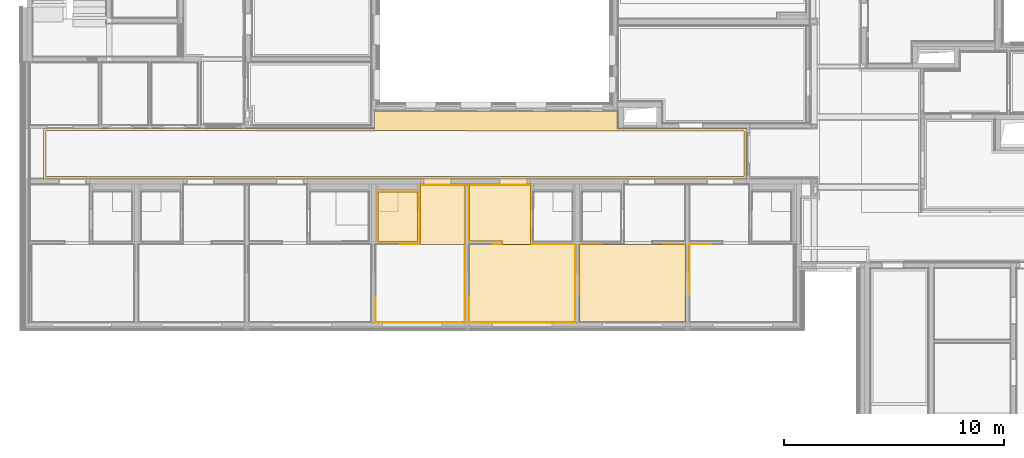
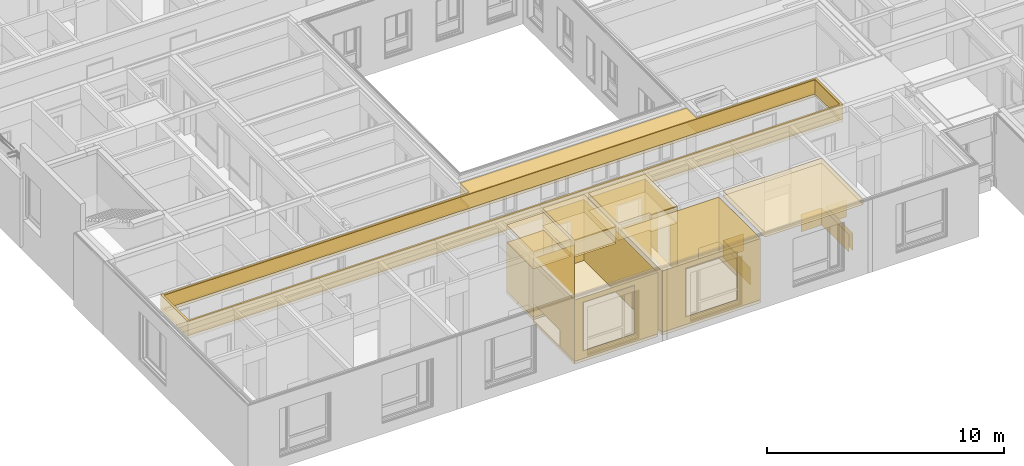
# One storey, part 156 of 222: 32 coverings.
"""IFC4 building model written with IfcOpenShell, lengths in metres."""

from ifc_helpers import new_model, entity, si_unit, converted_unit, derived_unit, frame, frame_2d, origin, origin_with_axes, place, context, subcontext, project, spatial, polyline, rectangle, outline, extrude, material, layer, layer_set, layer_usage, element, save


model = new_model("IFC4")

# Units and contexts
model_context = context("Model", 3, precision=1e-05, world=origin())
body_context = subcontext(model_context, "Body", "Model", "MODEL_VIEW")
ifc_project = project(units=[si_unit("LENGTHUNIT", "METRE"), si_unit("AREAUNIT", "SQUARE_METRE"), si_unit("VOLUMEUNIT", "CUBIC_METRE"), si_unit("MASSUNIT", "GRAM", prefix="KILO"), converted_unit("PLANEANGLEUNIT", "DEGREE", entity("IfcPlaneAngleMeasure", 0.0174532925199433), si_unit("PLANEANGLEUNIT", "RADIAN"), dimensions=[0, 0, 0, 0, 0, 0, 0]), derived_unit("THERMALTRANSMITTANCEUNIT", [(si_unit("POWERUNIT", "WATT"), 1), (si_unit("THERMODYNAMICTEMPERATUREUNIT", "KELVIN"), -1), (si_unit("LENGTHUNIT", "METRE"), -2)]), derived_unit("VOLUMETRICFLOWRATEUNIT", [(si_unit("LENGTHUNIT", "METRE"), 3), (converted_unit("TIMEUNIT", "hour", entity("IfcTimeMeasure", 3600.0), si_unit("TIMEUNIT", "SECOND"), dimensions=[0, 0, 1, 0, 0, 0, 0]), -1), (si_unit("LENGTHUNIT", "METRE"), -1)])], contexts=[model_context])

# Site, building, storey, space
site_placement = place(None, origin())
site = spatial("IfcSite", under=ifc_project, at=site_placement, Name="Psychiatrie Neubau Wunstorf", CompositionType="ELEMENT")
building_placement = place(site_placement, origin())
building = spatial("IfcBuilding", under=site, at=building_placement, Name="Neubau H2 Stationsgebäude", CompositionType="ELEMENT")
storey_placement = place(building_placement, frame((0.0, 0.0, 3.6)))
storey = spatial("IfcBuildingStorey", under=building, at=storey_placement, Name="H2 Ebene +1", CompositionType="ELEMENT", Elevation=3.6)
space_1_placement = place(storey_placement, frame((0.168999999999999, 4.33074963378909, 0.0)))
space_1 = spatial("IfcSpace", under=storey, at=space_1_placement, Name="WUN-H2-E01-073", CompositionType="ELEMENT")

# Coverings
ifc_material_1 = material()
ifc_layer_1 = layer(ifc_material_1, 0.036)
ifc_layer_set_1 = layer_set([ifc_layer_1])
ifc_layer_usage_1 = layer_usage(ifc_layer_set_1, "AXIS3", "POSITIVE", 0.0)
covering_1_placement = place(space_1_placement, frame((0.601000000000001, 0.0, 3.55)))
element("IfcCovering", 1, at=covering_1_placement, inside=space_1, material=ifc_layer_usage_1, Name="Gipsfaserplatten 2-lagig (BSK)", PredefinedType="CEILING", context=body_context, shape_type="SweptSolid", body=[
    extrude(outline(polyline([(0.0, 0.788999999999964), (15.019, 0.7890001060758), (15.019, 0.0), (26.0500003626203, 0.0), (26.0500003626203, 0.801999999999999), (31.8934999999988, 0.801999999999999), (31.8934999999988, 3.08325036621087), (0.0, 3.08325026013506), (0.0, 0.788999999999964)]), holes=[polyline([(0.1, 2.98325026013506), (31.7934999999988, 2.98325036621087), (31.7934999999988, 0.901999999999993), (0.1, 0.888999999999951), (0.1, 2.98325026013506)])]), frame((0.0, 3.08325036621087, 0.0), z_axis=(0.0, 0.0, -1.0), x_axis=(1.0, 0.0, 0.0)), (0.0, 0.0, 1.0), 0.036),
])
ifc_material_2 = material(Name="Installationshöhe")
ifc_layer_2 = layer(ifc_material_2, 0.714)
ifc_layer_set_2 = layer_set([ifc_layer_2])
ifc_layer_usage_2 = layer_usage(ifc_layer_set_2, "AXIS3", "POSITIVE", 0.0)
covering_2_placement = place(space_1_placement, frame((0.601000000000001, 0.0, 3.514)))
element("IfcCovering", 2, at=covering_2_placement, inside=space_1, material=ifc_layer_usage_2, Name="Gipsfaserplatten 2-lagig (BSK)", PredefinedType="CEILING", context=body_context, shape_type="SweptSolid", body=[
    extrude(outline(polyline([(0.0, 0.788999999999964), (15.019, 0.7890001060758), (15.019, 0.0), (26.0500003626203, 0.0), (26.0500003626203, 0.801999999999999), (31.8934999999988, 0.801999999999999), (31.8934999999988, 3.08325036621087), (0.0, 3.08325026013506), (0.0, 0.788999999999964)]), holes=[polyline([(0.1, 2.98325026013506), (31.7934999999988, 2.98325036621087), (31.7934999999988, 0.901999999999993), (0.1, 0.888999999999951), (0.1, 2.98325026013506)])]), frame((0.0, 3.08325036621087, 0.0), z_axis=(0.0, 0.0, -1.0), x_axis=(1.0, 0.0, 0.0)), (0.0, 0.0, 1.0), 0.714),
])
ifc_material_3 = material(Name="A1")
ifc_layer_3 = layer(ifc_material_3, 0.15)
ifc_layer_set_3 = layer_set([ifc_layer_3])
ifc_layer_usage_3 = layer_usage(ifc_layer_set_3, "AXIS3", "POSITIVE", 0.0)
covering_3_placement = place(space_1_placement, frame((0.601000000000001, 0.0, 2.8)))
element("IfcCovering", 3, at=covering_3_placement, inside=space_1, material=ifc_layer_usage_3, Name="Gipsfaserplatten 2-lagig (BSK)", PredefinedType="CEILING", context=body_context, shape_type="SweptSolid", body=[
    extrude(outline(polyline([(0.0, 0.788999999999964), (15.019, 0.7890001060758), (15.019, 0.0), (26.0500003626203, 0.0), (26.0500003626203, 0.801999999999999), (31.8934999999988, 0.801999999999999), (31.8934999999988, 3.08325036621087), (0.0, 3.08325026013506), (0.0, 0.788999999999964)]), holes=[polyline([(0.1, 2.98325026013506), (31.7934999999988, 2.98325036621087), (31.7934999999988, 0.901999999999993), (0.1, 0.888999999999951), (0.1, 2.98325026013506)])]), frame((0.0, 3.08325036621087, 0.0), z_axis=(0.0, 0.0, -1.0), x_axis=(1.0, 0.0, 0.0)), (0.0, 0.0, 1.0), 0.15),
])

# Space
space_2_placement = place(storey_placement, frame((30.1, -2.16399999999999, 0.0)))
space_2 = spatial("IfcSpace", under=storey, at=space_2_placement, Name="WUN-H2-E01-019", CompositionType="ELEMENT")

# Covering
ifc_material_4 = material(Name="84")
ifc_layer_4 = layer(ifc_material_4, 0.001)
ifc_layer_set_4 = layer_set([ifc_layer_4])
ifc_layer_usage_4 = layer_usage(ifc_layer_set_4, "AXIS3", "POSITIVE", 0.0)
covering_4_placement = place(space_2_placement, frame((0.0, 1.22274963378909, 0.1)))
element("IfcCovering", 4, at=covering_4_placement, inside=space_2, material=ifc_layer_usage_4, Name="Acrovyn", PredefinedType="CLADDING", context=body_context, shape_type="SweptSolid", body=[
    extrude(rectangle(XDim=1.0, YDim=0.9, at=frame_2d((0.5, -0.45), x_axis=(1.0, 0.0))), frame((1.0, 2.3, 0.0), z_axis=(0.0, -1.0, 0.0), x_axis=(-1.0, 0.0, 0.0)), (0.0, 0.0, 1.0), 0.001),
    extrude(rectangle(XDim=2.3, YDim=0.9, at=frame_2d((1.15, -0.45), x_axis=(1.0, 0.0))), frame((0.0, 2.3, 0.0), z_axis=(1.0, 0.0, 0.0), x_axis=(0.0, -1.0, 0.0)), (0.0, 0.0, 1.0), 0.001),
])

# Space
space_3_placement = place(storey_placement, frame((25.1, -2.16399999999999, 0.0)))
space_3 = spatial("IfcSpace", under=storey, at=space_3_placement, Name="WUN-H2-E01-020", CompositionType="ELEMENT")

# Coverings
ifc_material_5 = material(Name="84")
ifc_layer_5 = layer(ifc_material_5, 0.001)
ifc_layer_set_5 = layer_set([ifc_layer_5])
ifc_layer_usage_5 = layer_usage(ifc_layer_set_5, "AXIS3", "POSITIVE", 0.0)
covering_5_placement = place(space_3_placement, frame((0.0, 1.2227496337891, 0.1)))
element("IfcCovering", 5, at=covering_5_placement, inside=space_3, material=ifc_layer_usage_5, Name="Acrovyn", PredefinedType="CLADDING", context=body_context, shape_type="SweptSolid", body=[
    extrude(rectangle(XDim=1.0, YDim=0.9, at=frame_2d((0.5, -0.45), x_axis=(1.0, 0.0))), frame((1.0, 2.3, 0.0), z_axis=(0.0, -1.0, 0.0), x_axis=(-1.0, 0.0, 0.0)), (0.0, 0.0, 1.0), 0.001),
    extrude(rectangle(XDim=2.3, YDim=0.9, at=frame_2d((1.15, -0.45), x_axis=(1.0, 0.0))), frame((0.0, 2.3, 0.0), z_axis=(1.0, 0.0, 0.0), x_axis=(0.0, -1.0, 0.0)), (0.0, 0.0, 1.0), 0.001),
])
ifc_material_6 = material(Name="84")
ifc_layer_6 = layer(ifc_material_6, 0.001)
ifc_layer_set_6 = layer_set([ifc_layer_6])
ifc_layer_usage_6 = layer_usage(ifc_layer_set_6, "AXIS3", "POSITIVE", 0.0)
covering_6_placement = place(space_3_placement, frame((3.80000000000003, 1.2227496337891, 0.1)))
element("IfcCovering", 6, at=covering_6_placement, inside=space_3, material=ifc_layer_usage_6, Name="Acrovyn", PredefinedType="CLADDING", context=body_context, shape_type="SweptSolid", body=[
    extrude(rectangle(XDim=0.9, YDim=1.0, at=frame_2d((-0.5, -0.45), x_axis=(0.0, -1.0))), frame((0.0, 2.3, 0.0), z_axis=(4.54747350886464e-16, -1.0, 0.0), x_axis=(-1.0, -4.54747350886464e-16, 0.0)), (0.0, 0.0, 1.0), 0.001),
    extrude(rectangle(XDim=0.9, YDim=2.3, at=frame_2d((-1.15, -0.45), x_axis=(0.0, -1.0))), frame((1.0, 2.3, 0.0), z_axis=(-1.0, 0.0, 0.0), x_axis=(0.0, 1.0, 0.0)), (0.0, 0.0, 1.0), 0.001),
])
ifc_material_7 = material()
ifc_layer_7 = layer(ifc_material_7, 0.036)
ifc_layer_set_7 = layer_set([ifc_layer_7])
ifc_layer_usage_7 = layer_usage(ifc_layer_set_7, "AXIS3", "POSITIVE", 0.0)
covering_7_placement = place(space_3_placement, frame((0.0, 0.0, 3.55)))
element("IfcCovering", 7, at=covering_7_placement, inside=space_3, material=ifc_layer_usage_7, Name="Gipsfaserplatten 2-lagig (BSK)", PredefinedType="CEILING", context=body_context, shape_type="SweptSolid", body=[
    extrude(rectangle(XDim=3.52274963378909, YDim=4.80000000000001, at=frame_2d((-2.40000000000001, 1.76137481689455), x_axis=(0.0, 1.0))), frame((4.80000000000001, 3.52274963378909, 0.0), z_axis=(0.0, 0.0, -1.0), x_axis=(1.0, 0.0, 0.0)), (0.0, 0.0, 1.0), 0.036),
])
ifc_material_8 = material(Name="Installationshöhe")
ifc_layer_8 = layer(ifc_material_8, 0.114)
ifc_layer_set_8 = layer_set([ifc_layer_8])
ifc_layer_usage_8 = layer_usage(ifc_layer_set_8, "AXIS3", "POSITIVE", 0.0)
covering_8_placement = place(space_3_placement, frame((0.0, 0.0, 3.514)))
element("IfcCovering", 8, at=covering_8_placement, inside=space_3, material=ifc_layer_usage_8, Name="Gipsfaserplatten 2-lagig (BSK)", PredefinedType="CEILING", context=body_context, shape_type="SweptSolid", body=[
    extrude(rectangle(XDim=3.52274963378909, YDim=4.80000000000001, at=frame_2d((-2.40000000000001, 1.76137481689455), x_axis=(0.0, 1.0))), frame((4.80000000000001, 3.52274963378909, 0.0), z_axis=(0.0, 0.0, -1.0), x_axis=(1.0, 0.0, 0.0)), (0.0, 0.0, 1.0), 0.114),
])
ifc_material_9 = material(Name="A1")
ifc_layer_9 = layer(ifc_material_9, 0.1)
ifc_layer_set_9 = layer_set([ifc_layer_9])
ifc_layer_usage_9 = layer_usage(ifc_layer_set_9, "AXIS3", "POSITIVE", 0.0)
covering_9_placement = place(space_3_placement, frame((0.0, 0.0, 3.4)))
element("IfcCovering", 9, at=covering_9_placement, inside=space_3, material=ifc_layer_usage_9, Name="Gipsfaserplatten 2-lagig (BSK)", PredefinedType="CEILING", context=body_context, shape_type="SweptSolid", body=[
    extrude(rectangle(XDim=3.52274963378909, YDim=4.80000000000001, at=frame_2d((-2.40000000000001, 1.76137481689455), x_axis=(0.0, 1.0))), frame((4.80000000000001, 3.52274963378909, 0.0), z_axis=(0.0, 0.0, -1.0), x_axis=(1.0, 0.0, 0.0)), (0.0, 0.0, 1.0), 0.1),
])
ifc_material_10 = material(Name="D1")
ifc_layer_10 = layer(ifc_material_10, 0.001)
ifc_layer_set_10 = layer_set([ifc_layer_10])
ifc_layer_usage_10 = layer_usage(ifc_layer_set_10, "AXIS3", "POSITIVE", 0.0)
covering_10_placement = place(space_3_placement, frame((0.0, 0.0, 3.3)))
element("IfcCovering", 10, at=covering_10_placement, inside=space_3, material=ifc_layer_usage_10, Name="Gipsfaserplatten 2-lagig (BSK)", PredefinedType="CEILING", context=body_context, shape_type="SweptSolid", body=[
    extrude(rectangle(XDim=3.52274963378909, YDim=4.80000000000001, at=frame_2d((-2.40000000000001, 1.76137481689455), x_axis=(0.0, 1.0))), frame((4.80000000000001, 3.52274963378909, 0.0), z_axis=(0.0, 0.0, -1.0), x_axis=(1.0, 0.0, 0.0)), (0.0, 0.0, 1.0), 0.001),
])

# Space
space_4_placement = place(storey_placement, frame((20.1, -2.16399999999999, 0.0)))
space_4 = spatial("IfcSpace", under=storey, at=space_4_placement, Name="WUN-H2-E01-021", CompositionType="ELEMENT")

# Coverings
ifc_material_11 = material(Name="84")
ifc_layer_11 = layer(ifc_material_11, 0.001)
ifc_layer_set_11 = layer_set([ifc_layer_11])
ifc_layer_usage_11 = layer_usage(ifc_layer_set_11, "AXIS3", "POSITIVE", 0.0)
covering_11_placement = place(space_4_placement, frame((3.80000000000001, 1.22274963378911, 0.1)))
element("IfcCovering", 11, at=covering_11_placement, inside=space_4, material=ifc_layer_usage_11, Name="Acrovyn", PredefinedType="CLADDING", context=body_context, shape_type="SweptSolid", body=[
    extrude(rectangle(XDim=0.9, YDim=1.0, at=frame_2d((-0.5, -0.45), x_axis=(0.0, -1.0))), frame((0.0, 2.3, 0.0), z_axis=(4.54747350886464e-16, -1.0, 0.0), x_axis=(-1.0, -4.54747350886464e-16, 0.0)), (0.0, 0.0, 1.0), 0.001),
    extrude(rectangle(XDim=0.9, YDim=2.3, at=frame_2d((-1.15, -0.45), x_axis=(0.0, -1.0))), frame((1.0, 2.3, 0.0), z_axis=(-1.0, 0.0, 0.0), x_axis=(0.0, 1.0, 0.0)), (0.0, 0.0, 1.0), 0.001),
])
ifc_material_12 = material()
ifc_layer_12 = layer(ifc_material_12, 0.036)
ifc_layer_set_12 = layer_set([ifc_layer_12])
ifc_layer_usage_12 = layer_usage(ifc_layer_set_12, "AXIS3", "POSITIVE", 0.0)
covering_12_placement = place(space_4_placement, frame((0.0, 3.52274963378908, 3.55)))
element("IfcCovering", 12, at=covering_12_placement, inside=space_4, material=ifc_layer_usage_12, Name="Gipsfaserplatten 2-lagig (BSK)", PredefinedType="CEILING", context=body_context, shape_type="SweptSolid", body=[
    extrude(outline(polyline([(2.775, 0.0), (2.775, 2.69999999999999), (1.5, 2.69999999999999), (1.5, 2.54999999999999), (0.0, 2.54999999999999), (0.0, 0.0), (2.775, 0.0)])), frame((0.0, 2.69999999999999, 0.0), z_axis=(0.0, 0.0, -1.0), x_axis=(1.0, 0.0, 0.0)), (0.0, 0.0, 1.0), 0.036),
])
ifc_material_13 = material(Name="Installationshöhe")
ifc_layer_13 = layer(ifc_material_13, 0.764)
ifc_layer_set_13 = layer_set([ifc_layer_13])
ifc_layer_usage_13 = layer_usage(ifc_layer_set_13, "AXIS3", "POSITIVE", 0.0)
covering_13_placement = place(space_4_placement, frame((0.0, 3.52274963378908, 3.514)))
element("IfcCovering", 13, at=covering_13_placement, inside=space_4, material=ifc_layer_usage_13, Name="Gipsfaserplatten 2-lagig (BSK)", PredefinedType="CEILING", context=body_context, shape_type="SweptSolid", body=[
    extrude(outline(polyline([(2.775, 0.0), (2.775, 2.69999999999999), (1.5, 2.69999999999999), (1.5, 2.54999999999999), (0.0, 2.54999999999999), (0.0, 0.0), (2.775, 0.0)])), frame((0.0, 2.69999999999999, 0.0), z_axis=(0.0, 0.0, -1.0), x_axis=(1.0, 0.0, 0.0)), (0.0, 0.0, 1.0), 0.764),
])
ifc_material_14 = material(Name="A1")
ifc_layer_14 = layer(ifc_material_14, 0.1)
ifc_layer_set_14 = layer_set([ifc_layer_14])
ifc_layer_usage_14 = layer_usage(ifc_layer_set_14, "AXIS3", "POSITIVE", 0.0)
covering_14_placement = place(space_4_placement, frame((0.0, 3.52274963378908, 2.75)))
element("IfcCovering", 14, at=covering_14_placement, inside=space_4, material=ifc_layer_usage_14, Name="Gipsfaserplatten 2-lagig (BSK)", PredefinedType="CEILING", context=body_context, shape_type="SweptSolid", body=[
    extrude(outline(polyline([(2.775, 0.0), (2.775, 2.69999999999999), (1.5, 2.69999999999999), (1.5, 2.54999999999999), (0.0, 2.54999999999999), (0.0, 0.0), (2.775, 0.0)])), frame((0.0, 2.69999999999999, 0.0), z_axis=(0.0, 0.0, -1.0), x_axis=(1.0, 0.0, 0.0)), (0.0, 0.0, 1.0), 0.1),
])
ifc_material_15 = material(Name="D1")
ifc_layer_15 = layer(ifc_material_15, 0.001)
ifc_layer_set_15 = layer_set([ifc_layer_15])
ifc_layer_usage_15 = layer_usage(ifc_layer_set_15, "AXIS3", "POSITIVE", 0.0)
covering_15_placement = place(space_4_placement, frame((0.0, 3.52274963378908, 2.65)))
element("IfcCovering", 15, at=covering_15_placement, inside=space_4, material=ifc_layer_usage_15, Name="Gipsfaserplatten 2-lagig (BSK)", PredefinedType="CEILING", context=body_context, shape_type="SweptSolid", body=[
    extrude(outline(polyline([(2.775, 0.0), (2.775, 2.69999999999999), (1.5, 2.69999999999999), (1.5, 2.54999999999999), (0.0, 2.54999999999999), (0.0, 0.0), (2.775, 0.0)])), frame((0.0, 2.69999999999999, 0.0), z_axis=(0.0, 0.0, -1.0), x_axis=(1.0, 0.0, 0.0)), (0.0, 0.0, 1.0), 0.001),
])
ifc_material_16 = material(Name="Ku1")
ifc_layer_16 = layer(ifc_material_16, 0.15)
ifc_layer_set_16 = layer_set([ifc_layer_16])
ifc_layer_usage_16 = layer_usage(ifc_layer_set_16, "AXIS3", "POSITIVE", 0.0)
covering_16_placement = place(space_4_placement, origin())
element("IfcCovering", 16, at=covering_16_placement, inside=space_4, material=ifc_layer_usage_16, Name="PVC Bahnenware Holzoptik", PredefinedType="FLOORING", context=body_context, shape_type="SweptSolid", body=[
    extrude(rectangle(XDim=0.271999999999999, YDim=1.26, at=frame_2d((-0.63, 0.136), x_axis=(0.0, 1.0))), frame((2.625, 6.22274963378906, 0.0), z_axis=(0.0, 0.0, 1.0), x_axis=(1.0, 0.0, 0.0)), (0.0, 0.0, 1.0), 0.15),
    extrude(outline(polyline([(2.775, 6.22274963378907), (0.0, 6.22274963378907), (0.0, 3.67274963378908), (1.5, 3.67274963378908), (1.5, 3.52274963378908), (0.0, 3.52274963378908), (0.0, 0.0), (4.8, 0.0), (4.8, 3.5227496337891), (2.775, 3.5227496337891), (2.775, 6.22274963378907)])), origin_with_axes(), (0.0, 0.0, 1.0), 0.15),
])
ifc_material_17 = material(Name="D1")
ifc_layer_17 = layer(ifc_material_17, 0.001)
ifc_layer_set_17 = layer_set([ifc_layer_17])
ifc_layer_usage_17 = layer_usage(ifc_layer_set_17, "AXIS3", "POSITIVE", 0.0)
covering_17_placement = place(space_4_placement, frame((0.0, 0.0, 3.3)))
element("IfcCovering", 17, at=covering_17_placement, inside=space_4, material=ifc_layer_usage_17, Name="Gipsfaserplatten 2-lagig (BSK)", PredefinedType="CEILING", context=body_context, shape_type="SweptSolid", body=[
    extrude(rectangle(XDim=3.5227496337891, YDim=4.8, at=frame_2d((-2.4, 1.76137481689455), x_axis=(0.0, 1.0))), frame((4.8, 3.5227496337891, 0.0), z_axis=(0.0, 0.0, -1.0), x_axis=(1.0, 0.0, 0.0)), (0.0, 0.0, 1.0), 0.001),
])
ifc_material_18 = material(Name="49")
ifc_layer_18 = layer(ifc_material_18, 0.001)
ifc_layer_set_18 = layer_set([ifc_layer_18])
ifc_layer_usage_18 = layer_usage(ifc_layer_set_18, "AXIS3", "POSITIVE", 0.0)
covering_18_placement = place(space_4_placement, frame((0.0, -0.025, 0.15)))
element("IfcCovering", 18, at=covering_18_placement, inside=space_4, material=ifc_layer_usage_18, PredefinedType="CLADDING", context=body_context, shape_type="SweptSolid", body=[
    extrude(outline(polyline([(0.999999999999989, 3.15), (2.025, 3.15), (2.025, 0.0), (0.0, 0.0), (0.0, 2.3), (0.999999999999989, 2.3), (0.999999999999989, 3.15)])), frame((4.8, 3.5477496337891, 3.15), z_axis=(7.34093620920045e-16, -1.0, -8.63639554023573e-16), x_axis=(-1.0, -7.34093620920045e-16, 0.0)), (0.0, 0.0, 1.0), 0.001),
    extrude(outline(polyline([(0.0, 3.15), (0.62500000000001, 3.15), (0.62500000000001, 0.89), (1.63500000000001, 0.89), (1.63500000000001, 3.15), (2.69999999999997, 3.15), (2.69999999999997, 0.0), (0.0, 0.0), (0.0, 3.15)])), frame((2.775, 3.5477496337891, 3.15), z_axis=(-1.0, -2.34672188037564e-15, 1.16805161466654e-16), x_axis=(-2.34672188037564e-15, 1.0, 0.0)), (0.0, 0.0, 1.0), 0.001),
    extrude(outline(polyline([(0.0, 3.15), (0.149999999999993, 3.15), (0.149999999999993, 0.89), (1.40999999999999, 0.89), (1.40999999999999, 3.15), (2.775, 3.15), (2.775, 0.0), (0.0, 0.0), (0.0, 3.15)])), frame((2.775, 6.24774963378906, 3.15), z_axis=(-1.55957542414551e-16, -1.0, -3.76782381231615e-16), x_axis=(-1.0, 1.55957542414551e-16, 0.0)), (0.0, 0.0, 1.0), 0.001),
    extrude(rectangle(XDim=2.54999999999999, YDim=3.15, at=frame_2d((1.27499999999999, -1.575), x_axis=(1.0, 0.0))), frame((0.0, 6.24774963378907, 0.0), z_axis=(1.0, 0.0, 0.0), x_axis=(0.0, -1.0, 0.0)), (0.0, 0.0, 1.0), 0.001),
    extrude(rectangle(XDim=1.5, YDim=3.15, at=frame_2d((0.75, -1.575), x_axis=(1.0, 0.0))), frame((0.0, 3.69774963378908, 0.0), z_axis=(0.0, 1.0, 0.0), x_axis=(1.0, 0.0, 0.0)), (0.0, 0.0, 1.0), 0.001),
    extrude(rectangle(XDim=0.15, YDim=3.15, at=frame_2d((0.0749999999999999, -1.575), x_axis=(1.0, 0.0))), frame((1.5, 3.69774963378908, 0.0), z_axis=(1.0, 0.0, 0.0), x_axis=(0.0, -1.0, 0.0)), (0.0, 0.0, 1.0), 0.001),
    extrude(outline(polyline([(0.0, 3.15), (0.5, 3.15), (0.5, 2.3), (1.5, 2.3), (1.5, 0.0), (0.0, 0.0), (0.0, 3.15)])), frame((1.5, 3.54774963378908, 3.15), z_axis=(0.0, -1.0, 0.0), x_axis=(-1.0, 0.0, 0.0)), (0.0, 0.0, 1.0), 0.001),
    extrude(outline(polyline([(2.3, 3.15), (3.52274963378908, 3.15), (3.52274963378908, 0.0), (0.0, 0.0), (0.0, 2.3), (2.3, 2.3), (2.3, 3.15)])), frame((0.0, 3.54774963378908, 3.15), z_axis=(1.0, 0.0, 0.0), x_axis=(0.0, -1.0, 0.0)), (0.0, 0.0, 1.0), 0.001),
    extrude(outline(polyline([(0.0, 3.15), (4.8, 3.15), (4.8, 0.0), (0.0, 0.0), (0.0, 3.15)]), holes=[polyline([(3.65, 2.75), (1.15, 2.75), (1.15, 0.25), (3.65, 0.25), (3.65, 2.75)])]), frame((0.0, 0.0249999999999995, 3.15), z_axis=(5.31992689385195e-17, 1.0, 0.0), x_axis=(1.0, -5.31992689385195e-17, 0.0)), (0.0, 0.0, 1.0), 0.001),
    extrude(outline(polyline([(0.0, 3.15), (1.22274963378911, 3.15), (1.22274963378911, 2.3), (3.5227496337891, 2.3), (3.5227496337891, 0.0), (0.0, 0.0), (0.0, 3.15)])), frame((4.8, 0.0250000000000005, 3.15), z_axis=(-1.0, -6.28993976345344e-16, -1.66118574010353e-15), x_axis=(-6.28993976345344e-16, 1.0, 0.0)), (0.0, 0.0, 1.0), 0.001),
    extrude(rectangle(XDim=0.0249999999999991, YDim=2.5, at=frame_2d((0.0124999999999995, -1.25), x_axis=(1.0, 0.0))), frame((1.15, 0.0249999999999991, 0.4), z_axis=(1.0, 0.0, 0.0), x_axis=(0.0, -1.0, 0.0)), (0.0, 0.0, 1.0), 0.001),
    extrude(rectangle(XDim=2.5, YDim=0.0249999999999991, at=frame_2d((-1.25, 0.0124999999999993), x_axis=(-1.0, -1.81898940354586e-16))), frame((3.65, 0.0249999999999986, 2.9), z_axis=(0.0, 0.0, -1.0), x_axis=(1.0, 0.0, 0.0)), (0.0, 0.0, 1.0), 0.001),
    extrude(rectangle(XDim=2.5, YDim=0.0249999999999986, at=frame_2d((-0.0124999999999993, -1.25), x_axis=(0.0, -1.0))), frame((3.65, 0.0249999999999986, 0.4), z_axis=(-1.0, 0.0, 0.0), x_axis=(0.0, 1.0, 0.0)), (0.0, 0.0, 1.0), 0.001),
])

# Space
space_5_placement = place(storey_placement, frame((15.85, -2.16399999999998, 0.0)))
space_5 = spatial("IfcSpace", under=storey, at=space_5_placement, Name="WUN-H2-E01-022", CompositionType="ELEMENT")

# Coverings
ifc_material_19 = material()
ifc_layer_19 = layer(ifc_material_19, 0.036)
ifc_layer_set_19 = layer_set([ifc_layer_19])
ifc_layer_usage_19 = layer_usage(ifc_layer_set_19, "AXIS3", "POSITIVE", 0.0)
covering_19_placement = place(space_5_placement, frame((2.02499999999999, 3.52274963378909, 3.55)))
element("IfcCovering", 19, at=covering_19_placement, inside=space_5, material=ifc_layer_usage_19, Name="Gipsfaserplatten 2-lagig (BSK)", PredefinedType="CEILING", context=body_context, shape_type="SweptSolid", body=[
    extrude(rectangle(XDim=2.69999999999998, YDim=2.025, at=frame_2d((1.0125, -1.34999999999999), x_axis=(-2.69479911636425e-15, -1.0))), frame((0.0, 0.0, 0.0), z_axis=(0.0, 0.0, -1.0), x_axis=(1.0, 0.0, 0.0)), (0.0, 0.0, 1.0), 0.036),
])
ifc_material_20 = material(Name="Installationshöhe")
ifc_layer_20 = layer(ifc_material_20, 0.764)
ifc_layer_set_20 = layer_set([ifc_layer_20])
ifc_layer_usage_20 = layer_usage(ifc_layer_set_20, "AXIS3", "POSITIVE", 0.0)
covering_20_placement = place(space_5_placement, frame((2.02499999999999, 3.52274963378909, 3.514)))
element("IfcCovering", 20, at=covering_20_placement, inside=space_5, material=ifc_layer_usage_20, Name="Gipsfaserplatten 2-lagig (BSK)", PredefinedType="CEILING", context=body_context, shape_type="SweptSolid", body=[
    extrude(rectangle(XDim=2.69999999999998, YDim=2.025, at=frame_2d((1.0125, -1.34999999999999), x_axis=(-2.69479911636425e-15, -1.0))), frame((0.0, 0.0, 0.0), z_axis=(0.0, 0.0, -1.0), x_axis=(1.0, 0.0, 0.0)), (0.0, 0.0, 1.0), 0.764),
])
ifc_material_21 = material(Name="A1")
ifc_layer_21 = layer(ifc_material_21, 0.1)
ifc_layer_set_21 = layer_set([ifc_layer_21])
ifc_layer_usage_21 = layer_usage(ifc_layer_set_21, "AXIS3", "POSITIVE", 0.0)
covering_21_placement = place(space_5_placement, frame((2.02499999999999, 3.52274963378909, 2.75)))
element("IfcCovering", 21, at=covering_21_placement, inside=space_5, material=ifc_layer_usage_21, Name="Gipsfaserplatten 2-lagig (BSK)", PredefinedType="CEILING", context=body_context, shape_type="SweptSolid", body=[
    extrude(rectangle(XDim=2.69999999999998, YDim=2.025, at=frame_2d((1.0125, -1.34999999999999), x_axis=(-2.69479911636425e-15, -1.0))), frame((0.0, 0.0, 0.0), z_axis=(0.0, 0.0, -1.0), x_axis=(1.0, 0.0, 0.0)), (0.0, 0.0, 1.0), 0.1),
])
ifc_material_22 = material(Name="D1")
ifc_layer_22 = layer(ifc_material_22, 0.001)
ifc_layer_set_22 = layer_set([ifc_layer_22])
ifc_layer_usage_22 = layer_usage(ifc_layer_set_22, "AXIS3", "POSITIVE", 0.0)
covering_22_placement = place(space_5_placement, frame((2.02499999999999, 3.52274963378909, 2.65)))
element("IfcCovering", 22, at=covering_22_placement, inside=space_5, material=ifc_layer_usage_22, Name="Gipsfaserplatten 2-lagig (BSK)", PredefinedType="CEILING", context=body_context, shape_type="SweptSolid", body=[
    extrude(rectangle(XDim=2.69999999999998, YDim=2.025, at=frame_2d((1.0125, -1.34999999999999), x_axis=(-2.69479911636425e-15, -1.0))), frame((0.0, 0.0, 0.0), z_axis=(0.0, 0.0, -1.0), x_axis=(1.0, 0.0, 0.0)), (0.0, 0.0, 1.0), 0.001),
])
ifc_material_23 = material(Name="Ku1")
ifc_layer_23 = layer(ifc_material_23, 0.15)
ifc_layer_set_23 = layer_set([ifc_layer_23])
ifc_layer_usage_23 = layer_usage(ifc_layer_set_23, "AXIS3", "POSITIVE", 0.0)
covering_23_placement = place(space_5_placement, origin())
element("IfcCovering", 23, at=covering_23_placement, inside=space_5, material=ifc_layer_usage_23, Name="PVC Bahnenware Holzoptik", PredefinedType="FLOORING", context=body_context, shape_type="SweptSolid", body=[
    extrude(rectangle(XDim=0.271999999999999, YDim=1.26, at=frame_2d((-0.63, 0.136), x_axis=(0.0, 1.0))), frame((3.435, 6.22274963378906, 0.0), z_axis=(0.0, 0.0, 1.0), x_axis=(1.0, 0.0, 0.0)), (0.0, 0.0, 1.0), 0.15),
    extrude(outline(polyline([(0.0, 3.52274963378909), (0.0, 0.0), (4.04999999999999, 0.0), (4.04999999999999, 6.22274963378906), (2.025, 6.22274963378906), (2.025, 3.52274963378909), (0.0, 3.52274963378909)])), origin_with_axes(), (0.0, 0.0, 1.0), 0.15),
])
ifc_material_24 = material(Name="49")
ifc_layer_24 = layer(ifc_material_24, 0.001)
ifc_layer_set_24 = layer_set([ifc_layer_24])
ifc_layer_usage_24 = layer_usage(ifc_layer_set_24, "AXIS3", "POSITIVE", 0.0)
covering_24_placement = place(space_5_placement, frame((0.0, -0.0249999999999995, 0.15)))
element("IfcCovering", 24, at=covering_24_placement, inside=space_5, material=ifc_layer_usage_24, PredefinedType="CLADDING", context=body_context, shape_type="SweptSolid", body=[
    extrude(outline(polyline([(0.0, 3.15), (1.06499999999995, 3.15), (1.06499999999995, 0.89), (2.07499999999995, 0.89), (2.07499999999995, 3.15), (2.69999999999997, 3.15), (2.69999999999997, 0.0), (0.0, 0.0), (0.0, 3.15)])), frame((2.025, 6.24774963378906, 3.15), z_axis=(1.0, 0.0, 0.0), x_axis=(0.0, -1.0, 0.0)), (0.0, 0.0, 1.0), 0.001),
    extrude(outline(polyline([(0.0, 3.15), (1.025, 3.15), (1.025, 2.3), (2.025, 2.3), (2.025, 0.0), (0.0, 0.0), (0.0, 3.15)])), frame((2.025, 3.54774963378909, 3.15), z_axis=(0.0, -1.0, 0.0), x_axis=(-1.0, 0.0, 0.0)), (0.0, 0.0, 1.0), 0.001),
    extrude(outline(polyline([(2.3, 3.15), (3.52274963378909, 3.15), (3.52274963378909, 0.0), (0.0, 0.0), (0.0, 2.3), (2.3, 2.3), (2.3, 3.15)])), frame((0.0, 3.54774963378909, 3.15), z_axis=(1.0, 0.0, 0.0), x_axis=(0.0, -1.0, 0.0)), (0.0, 0.0, 1.0), 0.001),
    extrude(outline(polyline([(0.0, 3.15), (4.04999999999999, 3.15), (4.04999999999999, 0.0), (0.0, 0.0), (0.0, 3.15)]), holes=[polyline([(2.9, 2.75), (0.399999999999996, 2.75), (0.399999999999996, 0.25), (2.9, 0.25), (2.9, 2.75)])]), frame((0.0, 0.0249999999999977, 3.15), z_axis=(5.98115679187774e-17, 1.0, 0.0), x_axis=(1.0, -5.98115679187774e-17, 0.0)), (0.0, 0.0, 1.0), 0.001),
    extrude(rectangle(XDim=6.22274963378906, YDim=3.15, at=frame_2d((3.11137481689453, -1.575), x_axis=(1.0, 0.0))), frame((4.04999999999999, 0.0249999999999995, 0.0), z_axis=(-1.0, 0.0, 0.0), x_axis=(0.0, 1.0, 0.0)), (0.0, 0.0, 1.0), 0.001),
    extrude(outline(polyline([(0.0, 3.15), (0.614999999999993, 3.15), (0.614999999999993, 0.89), (1.87499999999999, 0.89), (1.87499999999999, 3.15), (2.02499999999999, 3.15), (2.02499999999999, 0.0), (0.0, 0.0), (0.0, 3.15)])), frame((4.04999999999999, 6.24774963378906, 3.15), z_axis=(-2.04939182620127e-16, -1.0, -5.18242225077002e-16), x_axis=(-1.0, 2.04939182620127e-16, 0.0)), (0.0, 0.0, 1.0), 0.001),
    extrude(rectangle(XDim=0.0249999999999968, YDim=2.5, at=frame_2d((0.0124999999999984, -1.25), x_axis=(1.0, 0.0))), frame((0.399999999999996, 0.0249999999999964, 0.4), z_axis=(1.0, 0.0, 0.0), x_axis=(0.0, -1.0, 0.0)), (0.0, 0.0, 1.0), 0.001),
    extrude(rectangle(XDim=2.5, YDim=0.0249999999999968, at=frame_2d((-1.25, 0.0124999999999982), x_axis=(-1.0, -1.81898940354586e-16))), frame((2.9, 0.0249999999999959, 2.9), z_axis=(0.0, 0.0, -1.0), x_axis=(1.0, 0.0, 0.0)), (0.0, 0.0, 1.0), 0.001),
    extrude(rectangle(XDim=2.5, YDim=0.0249999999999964, at=frame_2d((-0.0124999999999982, -1.25), x_axis=(0.0, -1.0))), frame((2.9, 0.0249999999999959, 0.4), z_axis=(-1.0, 0.0, 0.0), x_axis=(0.0, 1.0, 0.0)), (0.0, 0.0, 1.0), 0.001),
])

# Space
space_6_placement = place(storey_placement, frame((15.95, 1.48374963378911, 0.0)))
space_6 = spatial("IfcSpace", under=storey, at=space_6_placement, Name="WUN-H2-E01-022a", CompositionType="ELEMENT")

# Coverings
ifc_material_25 = material(Name="Fl2")
ifc_layer_25 = layer(ifc_material_25, 0.15)
ifc_layer_set_25 = layer_set([ifc_layer_25])
ifc_layer_usage_25 = layer_usage(ifc_layer_set_25, "AXIS3", "POSITIVE", 0.0)
covering_25_placement = place(space_6_placement, frame((0.0, 1.36499999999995, 0.0)))
element("IfcCovering", 25, at=covering_25_placement, inside=space_6, material=ifc_layer_usage_25, Name="Fliesen Mosaik", PredefinedType="FLOORING", context=body_context, shape_type="SweptSolid", body=[
    extrude(rectangle(XDim=0.9, YDim=0.9, at=frame_2d((0.45, -0.45), x_axis=(0.0, -1.0))), frame((0.0, 0.9, 0.0), z_axis=(0.0, 0.0, 1.0), x_axis=(1.0, 0.0, 0.0)), (0.0, 0.0, 1.0), 0.15),
])
ifc_material_26 = material(Name="Fl1")
ifc_layer_26 = layer(ifc_material_26, 0.15)
ifc_layer_set_26 = layer_set([ifc_layer_26])
ifc_layer_usage_26 = layer_usage(ifc_layer_set_26, "AXIS3", "POSITIVE", 0.0)
covering_26_placement = place(space_6_placement, origin())
element("IfcCovering", 26, at=covering_26_placement, inside=space_6, material=ifc_layer_usage_26, Name="Fliesen", PredefinedType="FLOORING", context=body_context, shape_type="SweptSolid", body=[
    extrude(rectangle(XDim=0.125, YDim=1.01, at=frame_2d((-0.0625, -0.505), x_axis=(-1.0, 0.0))), frame((1.925, 1.51000000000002, 0.0), z_axis=(0.0, 0.0, 1.0), x_axis=(1.0, 0.0, 0.0)), (0.0, 0.0, 1.0), 0.15),
    extrude(outline(polyline([(0.0, 0.0), (1.8, 0.0), (1.8, 2.26499999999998), (0.9, 2.26499999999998), (0.9, 1.36499999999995), (0.0, 1.36499999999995), (0.0, 0.0)])), origin_with_axes(), (0.0, 0.0, 1.0), 0.15),
])
ifc_material_27 = material()
ifc_layer_27 = layer(ifc_material_27, 0.036)
ifc_layer_set_27 = layer_set([ifc_layer_27])
ifc_layer_usage_27 = layer_usage(ifc_layer_set_27, "AXIS3", "POSITIVE", 0.0)
covering_27_placement = place(space_6_placement, frame((0.0, 0.0, 3.55)))
element("IfcCovering", 27, at=covering_27_placement, inside=space_6, material=ifc_layer_usage_27, Name="Gipsfaserplatten 2-lagig (BSK)", PredefinedType="CEILING", context=body_context, shape_type="SweptSolid", body=[
    extrude(rectangle(XDim=2.26499999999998, YDim=1.8, at=frame_2d((0.9, -1.13249999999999), x_axis=(0.0, -1.0))), frame((0.0, 0.0, 0.0), z_axis=(0.0, 0.0, -1.0), x_axis=(1.0, 0.0, 0.0)), (0.0, 0.0, 1.0), 0.036),
])
ifc_material_28 = material(Name="Installationshöhe")
ifc_layer_28 = layer(ifc_material_28, 0.764)
ifc_layer_set_28 = layer_set([ifc_layer_28])
ifc_layer_usage_28 = layer_usage(ifc_layer_set_28, "AXIS3", "POSITIVE", 0.0)
covering_28_placement = place(space_6_placement, frame((0.0, 0.0, 3.514)))
element("IfcCovering", 28, at=covering_28_placement, inside=space_6, material=ifc_layer_usage_28, Name="Gipsfaserplatten 2-lagig (BSK)", PredefinedType="CEILING", context=body_context, shape_type="SweptSolid", body=[
    extrude(rectangle(XDim=2.26499999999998, YDim=1.8, at=frame_2d((0.9, -1.13249999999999), x_axis=(0.0, -1.0))), frame((0.0, 0.0, 0.0), z_axis=(0.0, 0.0, -1.0), x_axis=(1.0, 0.0, 0.0)), (0.0, 0.0, 1.0), 0.764),
])
ifc_material_29 = material(Name="B")
ifc_layer_29 = layer(ifc_material_29, 0.1)
ifc_layer_set_29 = layer_set([ifc_layer_29])
ifc_layer_usage_29 = layer_usage(ifc_layer_set_29, "AXIS3", "POSITIVE", 0.0)
covering_29_placement = place(space_6_placement, frame((0.0, 0.0, 2.75)))
element("IfcCovering", 29, at=covering_29_placement, inside=space_6, material=ifc_layer_usage_29, Name="Gipskarton, imprägniert", PredefinedType="CEILING", context=body_context, shape_type="SweptSolid", body=[
    extrude(rectangle(XDim=2.26499999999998, YDim=1.8, at=frame_2d((0.9, -1.13249999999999), x_axis=(0.0, -1.0))), frame((0.0, 0.0, 0.0), z_axis=(0.0, 0.0, -1.0), x_axis=(1.0, 0.0, 0.0)), (0.0, 0.0, 1.0), 0.1),
])
ifc_material_30 = material(Name="D1")
ifc_layer_30 = layer(ifc_material_30, 0.001)
ifc_layer_set_30 = layer_set([ifc_layer_30])
ifc_layer_usage_30 = layer_usage(ifc_layer_set_30, "AXIS3", "POSITIVE", 0.0)
covering_30_placement = place(space_6_placement, frame((0.0, 0.0, 2.65)))
element("IfcCovering", 30, at=covering_30_placement, inside=space_6, material=ifc_layer_usage_30, Name="Gipsfaserplatten 2-lagig (BSK)", PredefinedType="CEILING", context=body_context, shape_type="SweptSolid", body=[
    extrude(rectangle(XDim=2.26499999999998, YDim=1.8, at=frame_2d((0.9, -1.13249999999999), x_axis=(0.0, -1.0))), frame((0.0, 0.0, 0.0), z_axis=(0.0, 0.0, -1.0), x_axis=(1.0, 0.0, 0.0)), (0.0, 0.0, 1.0), 0.001),
])
ifc_material_31 = material(Name="50")
ifc_layer_31 = layer(ifc_material_31, 0.001)
ifc_layer_set_31 = layer_set([ifc_layer_31])
ifc_layer_usage_31 = layer_usage(ifc_layer_set_31, "AXIS3", "POSITIVE", 0.0)
covering_31_placement = place(space_6_placement, frame((0.0, 0.0, 0.15)))
element("IfcCovering", 31, at=covering_31_placement, inside=space_6, material=ifc_layer_usage_31, PredefinedType="CLADDING", context=body_context, shape_type="SweptSolid", body=[
    extrude(outline(polyline([(0.0, 2.5), (0.500000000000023, 2.5), (0.500000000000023, 0.24), (1.51000000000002, 0.24), (1.51000000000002, 2.5), (1.52500000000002, 2.5), (1.52500000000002, 0.0), (0.0, 0.0), (0.0, 2.5)])), frame((1.8, 0.0, 2.5), z_axis=(-1.0, 0.0, 0.0), x_axis=(0.0, 1.0, 0.0)), (0.0, 0.0, 1.0), 0.001),
    extrude(rectangle(XDim=1.8, YDim=2.5, at=frame_2d((0.9, -1.25), x_axis=(1.0, 0.0))), frame((0.0, 0.0, 0.0), z_axis=(0.0, 1.0, 0.0), x_axis=(1.0, 0.0, 0.0)), (0.0, 0.0, 1.0), 0.001),
])
ifc_material_32 = material(Name="68")
ifc_layer_32 = layer(ifc_material_32, 0.01)
ifc_layer_set_32 = layer_set([ifc_layer_32])
ifc_layer_usage_32 = layer_usage(ifc_layer_set_32, "AXIS3", "POSITIVE", 0.0)
covering_32_placement = place(space_6_placement, frame((0.0, 0.0, 0.15)))
element("IfcCovering", 32, at=covering_32_placement, inside=space_6, material=ifc_layer_usage_32, Name="a-sh Wandbelag", PredefinedType="CLADDING", context=body_context, shape_type="SweptSolid", body=[
    extrude(rectangle(XDim=0.739999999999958, YDim=2.5, at=frame_2d((0.369999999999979, -1.25), x_axis=(1.0, 0.0))), frame((1.79999999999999, 1.52500000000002, 0.0), z_axis=(-1.0, 0.0, 0.0), x_axis=(0.0, 1.0, 0.0)), (0.0, 0.0, 1.0), 0.01),
    extrude(rectangle(XDim=2.26499999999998, YDim=2.5, at=frame_2d((1.13249999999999, -1.25), x_axis=(1.0, 0.0))), frame((0.0, 2.26499999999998, 0.0), z_axis=(1.0, 0.0, 0.0), x_axis=(0.0, -1.0, 0.0)), (0.0, 0.0, 1.0), 0.01),
    extrude(rectangle(XDim=1.79999999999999, YDim=2.5, at=frame_2d((0.899999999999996, -1.25), x_axis=(1.0, 0.0))), frame((1.79999999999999, 2.26499999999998, 0.0), z_axis=(0.0, -1.0, 0.0), x_axis=(-1.0, 0.0, 0.0)), (0.0, 0.0, 1.0), 0.01),
])

save(model, "model.ifc")
